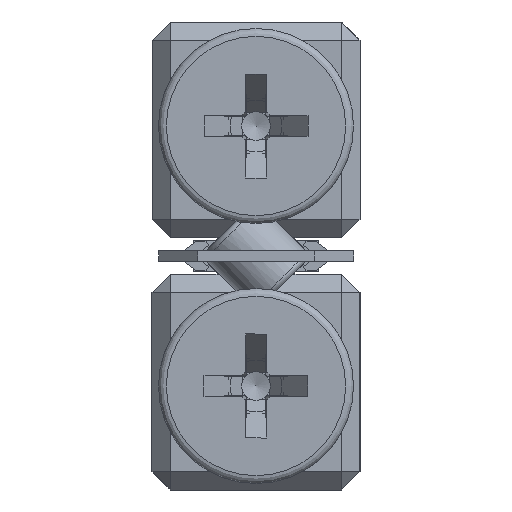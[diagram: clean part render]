
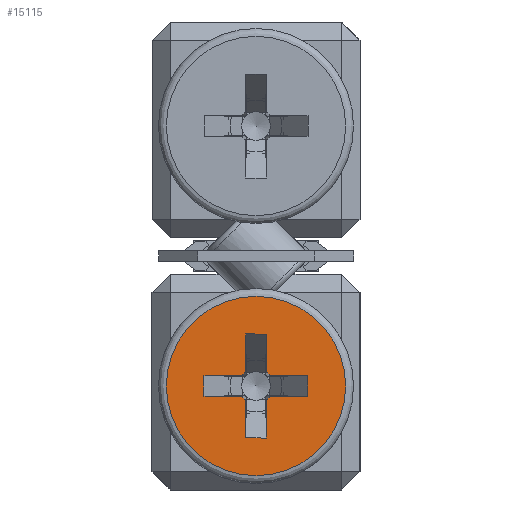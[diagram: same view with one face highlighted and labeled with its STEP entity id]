
A CAD part, left-side view. The second image highlights one B-rep face of the part: STEP entity #15115.
In plain terms, the highlighted planar face has unit normal (-1, 0, 0).
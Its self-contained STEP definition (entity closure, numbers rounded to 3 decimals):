
#214 = CARTESIAN_POINT ( 'NONE',  ( -114.5, 0.548, 4.4 ) ) ;
#265 = VERTEX_POINT ( 'NONE', #17694 ) ;
#388 = CARTESIAN_POINT ( 'NONE',  ( -114.5, -0.4, 2. ) ) ;
#411 = CARTESIAN_POINT ( 'NONE',  ( -114.5, -0.4, 6. ) ) ;
#443 = EDGE_CURVE ( 'NONE', #1971, #20874, #20106, .T. ) ;
#729 = DIRECTION ( 'NONE',  ( 0., 0., 1. ) ) ;
#839 = CIRCLE ( 'NONE', #20442, 0.678 ) ;
#896 = AXIS2_PLACEMENT_3D ( 'NONE', #12573, #22453, #18189 ) ;
#1199 = VECTOR ( 'NONE', #16229, 1000. ) ;
#1344 = VERTEX_POINT ( 'NONE', #24524 ) ;
#1504 = VERTEX_POINT ( 'NONE', #9984 ) ;
#1519 = CARTESIAN_POINT ( 'NONE',  ( -114.5, 0., 4. ) ) ;
#1533 = CIRCLE ( 'NONE', #4735, 0.678 ) ;
#1660 = ORIENTED_EDGE ( 'NONE', *, *, #9137, .T. ) ;
#1749 = DIRECTION ( 'NONE',  ( 0., 0., -1. ) ) ;
#1779 = DIRECTION ( 'NONE',  ( 0., 0., -1. ) ) ;
#1971 = VERTEX_POINT ( 'NONE', #10905 ) ;
#2160 = EDGE_CURVE ( 'NONE', #18587, #22484, #15837, .T. ) ;
#2170 = DIRECTION ( 'NONE',  ( 0., 1., 0. ) ) ;
#2638 = VECTOR ( 'NONE', #10566, 1000. ) ;
#2755 = DIRECTION ( 'NONE',  ( 0., 0., 1. ) ) ;
#2877 = EDGE_CURVE ( 'NONE', #15292, #3189, #19292, .T. ) ;
#3189 = VERTEX_POINT ( 'NONE', #15007 ) ;
#3453 = ORIENTED_EDGE ( 'NONE', *, *, #5016, .F. ) ;
#3553 = AXIS2_PLACEMENT_3D ( 'NONE', #1519, #15051, #1779 ) ;
#3720 = DIRECTION ( 'NONE',  ( 0., 1., 0. ) ) ;
#3783 = PLANE ( 'NONE',  #13160 ) ;
#4405 = VECTOR ( 'NONE', #14904, 1000. ) ;
#4640 = CARTESIAN_POINT ( 'NONE',  ( -114.5, 0., 4. ) ) ;
#4735 = AXIS2_PLACEMENT_3D ( 'NONE', #4640, #8406, #2755 ) ;
#5016 = EDGE_CURVE ( 'NONE', #1504, #16132, #6637, .T. ) ;
#5044 = CARTESIAN_POINT ( 'NONE',  ( -114.5, 0.4, 2. ) ) ;
#5427 = EDGE_CURVE ( 'NONE', #265, #18668, #17933, .T. ) ;
#5519 = EDGE_CURVE ( 'NONE', #1504, #1344, #12948, .T. ) ;
#5550 = ORIENTED_EDGE ( 'NONE', *, *, #17129, .F. ) ;
#5835 = AXIS2_PLACEMENT_3D ( 'NONE', #6832, #21859, #10715 ) ;
#5908 = ORIENTED_EDGE ( 'NONE', *, *, #20421, .T. ) ;
#6017 = DIRECTION ( 'NONE',  ( 0., 1., 0. ) ) ;
#6401 = VERTEX_POINT ( 'NONE', #18043 ) ;
#6452 = DIRECTION ( 'NONE',  ( 0., 0., -1. ) ) ;
#6544 = EDGE_CURVE ( 'NONE', #265, #20874, #15110, .T. ) ;
#6577 = CARTESIAN_POINT ( 'NONE',  ( -114.5, 2., 4.4 ) ) ;
#6637 = CIRCLE ( 'NONE', #5835, 0.678 ) ;
#6642 = ORIENTED_EDGE ( 'NONE', *, *, #2877, .T. ) ;
#6832 = CARTESIAN_POINT ( 'NONE',  ( -114.5, 0., 4. ) ) ;
#6910 = LINE ( 'NONE', #16784, #16346 ) ;
#7293 = EDGE_CURVE ( 'NONE', #6401, #22484, #839, .T. ) ;
#7584 = VERTEX_POINT ( 'NONE', #12298 ) ;
#7604 = EDGE_CURVE ( 'NONE', #15292, #7584, #1533, .T. ) ;
#7807 = EDGE_CURVE ( 'NONE', #1971, #15330, #6910, .T. ) ;
#7824 = VERTEX_POINT ( 'NONE', #13351 ) ;
#7844 = LINE ( 'NONE', #12107, #8493 ) ;
#8300 = CARTESIAN_POINT ( 'NONE',  ( -114.5, -2., 4.4 ) ) ;
#8372 = VECTOR ( 'NONE', #2170, 1000. ) ;
#8406 = DIRECTION ( 'NONE',  ( -1., 0., 0. ) ) ;
#8493 = VECTOR ( 'NONE', #6452, 1000. ) ;
#9137 = EDGE_CURVE ( 'NONE', #16854, #7584, #21908, .T. ) ;
#9984 = CARTESIAN_POINT ( 'NONE',  ( -114.5, 0.4, 4.548 ) ) ;
#10541 = EDGE_CURVE ( 'NONE', #16854, #15330, #13147, .T. ) ;
#10558 = ORIENTED_EDGE ( 'NONE', *, *, #5427, .F. ) ;
#10566 = DIRECTION ( 'NONE',  ( 0., 0., 1. ) ) ;
#10715 = DIRECTION ( 'NONE',  ( 0., 0., 1. ) ) ;
#10787 = CARTESIAN_POINT ( 'NONE',  ( -114.5, -2., 3.6 ) ) ;
#10905 = CARTESIAN_POINT ( 'NONE',  ( -114.5, -0.4, 3.452 ) ) ;
#10919 = ORIENTED_EDGE ( 'NONE', *, *, #18612, .F. ) ;
#10962 = FACE_BOUND ( 'NONE', #15062, .T. ) ;
#11436 = DIRECTION ( 'NONE',  ( 0., 0., -1. ) ) ;
#11953 = ORIENTED_EDGE ( 'NONE', *, *, #5519, .T. ) ;
#12036 = CARTESIAN_POINT ( 'NONE',  ( -114.5, -2., 3.6 ) ) ;
#12107 = CARTESIAN_POINT ( 'NONE',  ( -114.5, 2., 4.4 ) ) ;
#12298 = CARTESIAN_POINT ( 'NONE',  ( -114.5, 0.4, 3.452 ) ) ;
#12335 = CARTESIAN_POINT ( 'NONE',  ( -114.5, -0.4, 6. ) ) ;
#12573 = CARTESIAN_POINT ( 'NONE',  ( -114.5, 0., 4. ) ) ;
#12948 = LINE ( 'NONE', #5044, #19446 ) ;
#13147 = LINE ( 'NONE', #15272, #4405 ) ;
#13154 = CARTESIAN_POINT ( 'NONE',  ( -114.5, 2., 4.4 ) ) ;
#13160 = AXIS2_PLACEMENT_3D ( 'NONE', #17065, #14822, #11436 ) ;
#13187 = CARTESIAN_POINT ( 'NONE',  ( -114.5, 0., 4. ) ) ;
#13351 = CARTESIAN_POINT ( 'NONE',  ( -114.5, 0., 0.55 ) ) ;
#13486 = ORIENTED_EDGE ( 'NONE', *, *, #20015, .T. ) ;
#13818 = LINE ( 'NONE', #411, #8372 ) ;
#14140 = ORIENTED_EDGE ( 'NONE', *, *, #7293, .F. ) ;
#14175 = ORIENTED_EDGE ( 'NONE', *, *, #10541, .F. ) ;
#14428 = VECTOR ( 'NONE', #21597, 1000. ) ;
#14623 = CARTESIAN_POINT ( 'NONE',  ( -114.5, 0.4, 2. ) ) ;
#14720 = CARTESIAN_POINT ( 'NONE',  ( -114.5, 2., 4.4 ) ) ;
#14818 = DIRECTION ( 'NONE',  ( -1., 0., 0. ) ) ;
#14822 = DIRECTION ( 'NONE',  ( 1., 0., 0. ) ) ;
#14904 = DIRECTION ( 'NONE',  ( 0., -1., 0. ) ) ;
#15007 = CARTESIAN_POINT ( 'NONE',  ( -114.5, 2., 3.6 ) ) ;
#15051 = DIRECTION ( 'NONE',  ( -1., 0., 0. ) ) ;
#15062 = EDGE_LOOP ( 'NONE', ( #15608, #16304, #14175, #1660, #18757, #6642, #5550, #19999, #3453, #11953, #10919, #19614, #14140, #5908, #10558, #20650 ) ) ;
#15110 = LINE ( 'NONE', #10787, #18420 ) ;
#15115 = ADVANCED_FACE ( 'NONE', ( #20820, #10962 ), #3783, .F. ) ;
#15272 = CARTESIAN_POINT ( 'NONE',  ( -114.5, 0.4, 2. ) ) ;
#15292 = VERTEX_POINT ( 'NONE', #21556 ) ;
#15330 = VERTEX_POINT ( 'NONE', #388 ) ;
#15608 = ORIENTED_EDGE ( 'NONE', *, *, #443, .F. ) ;
#15837 = LINE ( 'NONE', #12335, #14428 ) ;
#16132 = VERTEX_POINT ( 'NONE', #214 ) ;
#16229 = DIRECTION ( 'NONE',  ( 0., -1., 0. ) ) ;
#16304 = ORIENTED_EDGE ( 'NONE', *, *, #7807, .T. ) ;
#16346 = VECTOR ( 'NONE', #1749, 1000. ) ;
#16784 = CARTESIAN_POINT ( 'NONE',  ( -114.5, -0.4, 6. ) ) ;
#16854 = VERTEX_POINT ( 'NONE', #14623 ) ;
#17065 = CARTESIAN_POINT ( 'NONE',  ( -114.5, 3.75, 4. ) ) ;
#17129 = EDGE_CURVE ( 'NONE', #17269, #3189, #7844, .T. ) ;
#17269 = VERTEX_POINT ( 'NONE', #6577 ) ;
#17653 = EDGE_LOOP ( 'NONE', ( #13486 ) ) ;
#17694 = CARTESIAN_POINT ( 'NONE',  ( -114.5, -2., 3.6 ) ) ;
#17933 = LINE ( 'NONE', #23461, #2638 ) ;
#18043 = CARTESIAN_POINT ( 'NONE',  ( -114.5, -0.548, 4.4 ) ) ;
#18189 = DIRECTION ( 'NONE',  ( 0., 0., 1. ) ) ;
#18420 = VECTOR ( 'NONE', #3720, 1000. ) ;
#18483 = LINE ( 'NONE', #14720, #1199 ) ;
#18587 = VERTEX_POINT ( 'NONE', #23097 ) ;
#18612 = EDGE_CURVE ( 'NONE', #18587, #1344, #13818, .T. ) ;
#18668 = VERTEX_POINT ( 'NONE', #8300 ) ;
#18757 = ORIENTED_EDGE ( 'NONE', *, *, #7604, .F. ) ;
#19292 = LINE ( 'NONE', #12036, #20261 ) ;
#19343 = CARTESIAN_POINT ( 'NONE',  ( -114.5, -0.548, 3.6 ) ) ;
#19446 = VECTOR ( 'NONE', #24456, 1000. ) ;
#19467 = EDGE_CURVE ( 'NONE', #17269, #16132, #18483, .T. ) ;
#19614 = ORIENTED_EDGE ( 'NONE', *, *, #2160, .T. ) ;
#19999 = ORIENTED_EDGE ( 'NONE', *, *, #19467, .T. ) ;
#20015 = EDGE_CURVE ( 'NONE', #7824, #7824, #23966, .T. ) ;
#20106 = CIRCLE ( 'NONE', #896, 0.678 ) ;
#20261 = VECTOR ( 'NONE', #6017, 1000. ) ;
#20421 = EDGE_CURVE ( 'NONE', #6401, #18668, #20663, .T. ) ;
#20423 = DIRECTION ( 'NONE',  ( 0., -1., 0. ) ) ;
#20442 = AXIS2_PLACEMENT_3D ( 'NONE', #13187, #14818, #22470 ) ;
#20650 = ORIENTED_EDGE ( 'NONE', *, *, #6544, .T. ) ;
#20663 = LINE ( 'NONE', #13154, #23583 ) ;
#20820 = FACE_OUTER_BOUND ( 'NONE', #17653, .T. ) ;
#20874 = VERTEX_POINT ( 'NONE', #19343 ) ;
#21067 = CARTESIAN_POINT ( 'NONE',  ( -114.5, -0.4, 4.548 ) ) ;
#21296 = VECTOR ( 'NONE', #729, 1000. ) ;
#21556 = CARTESIAN_POINT ( 'NONE',  ( -114.5, 0.548, 3.6 ) ) ;
#21597 = DIRECTION ( 'NONE',  ( 0., 0., -1. ) ) ;
#21859 = DIRECTION ( 'NONE',  ( -1., 0., 0. ) ) ;
#21908 = LINE ( 'NONE', #23910, #21296 ) ;
#22453 = DIRECTION ( 'NONE',  ( -1., 0., 0. ) ) ;
#22470 = DIRECTION ( 'NONE',  ( 0., 0., 1. ) ) ;
#22484 = VERTEX_POINT ( 'NONE', #21067 ) ;
#23097 = CARTESIAN_POINT ( 'NONE',  ( -114.5, -0.4, 6. ) ) ;
#23461 = CARTESIAN_POINT ( 'NONE',  ( -114.5, -2., 3.6 ) ) ;
#23583 = VECTOR ( 'NONE', #20423, 1000. ) ;
#23910 = CARTESIAN_POINT ( 'NONE',  ( -114.5, 0.4, 2. ) ) ;
#23966 = CIRCLE ( 'NONE', #3553, 3.45 ) ;
#24456 = DIRECTION ( 'NONE',  ( 0., 0., 1. ) ) ;
#24524 = CARTESIAN_POINT ( 'NONE',  ( -114.5, 0.4, 6. ) ) ;
